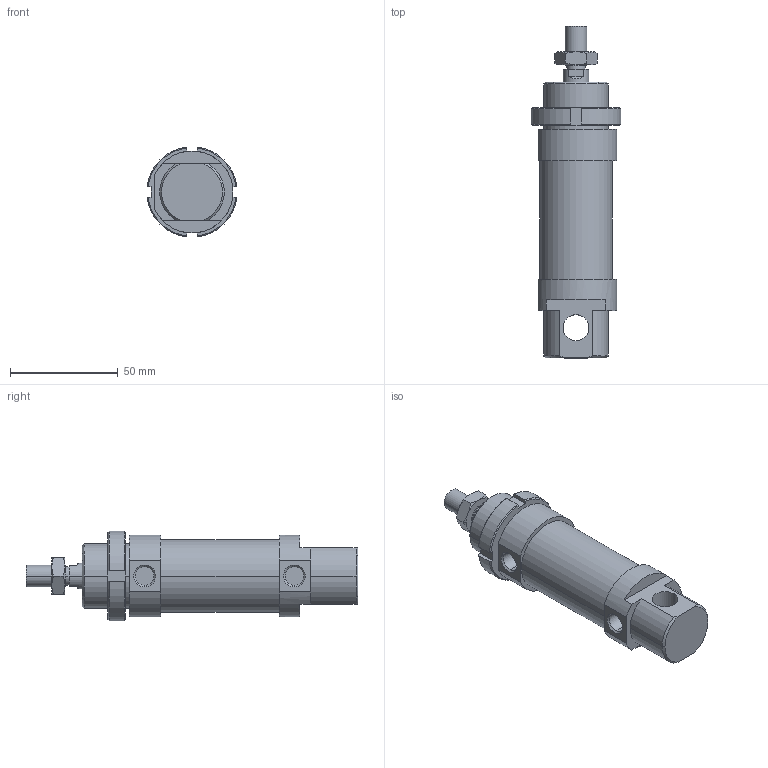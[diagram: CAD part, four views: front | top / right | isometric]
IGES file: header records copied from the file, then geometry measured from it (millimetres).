
Global section: file name: No Iges File Name specified; native system: AutoDesk Inventor R6.0; preprocessor: AutoDesk Inventor Iges Exporter R6.0; author: No Author specified; organization: No Organization specified; date: 20030407.191713; units: millimetre
Bounding box: 41.7 x 154 x 41.7 mm (x, y, z)
Volume: 114993 mm3; surface area: 26211.2 mm2
Topology: 4 solids, 4 shells, 122 faces, 286 edges, 180 vertices
Faces by surface type: plane 44, cone 30, cylinder 22, bspline 20, revolution 6
